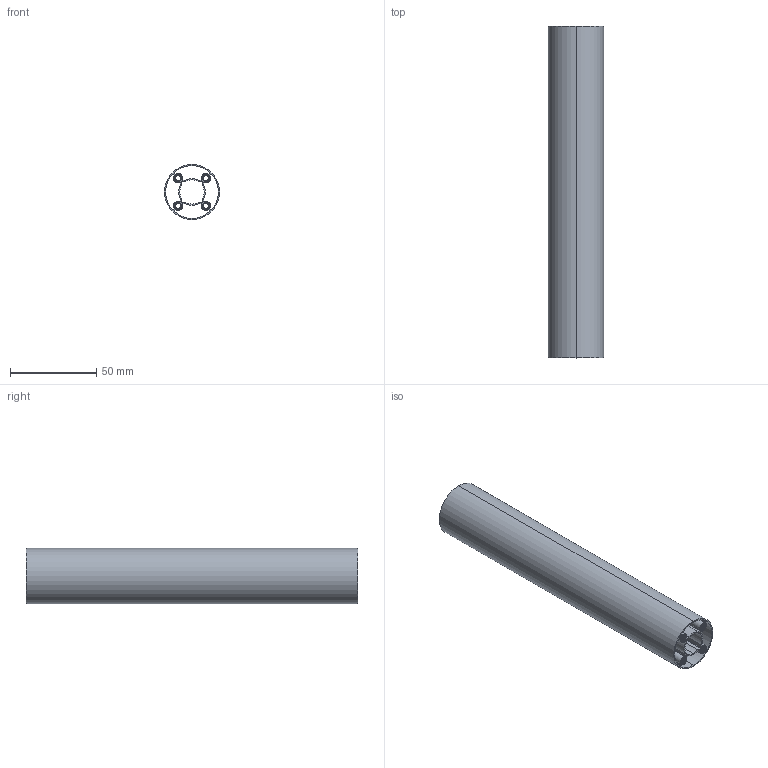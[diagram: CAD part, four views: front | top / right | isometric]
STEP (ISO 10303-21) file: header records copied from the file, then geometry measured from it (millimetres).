
FILE_DESCRIPTION (( 'STEP AP203' ), '1' );
FILE_NAME ('4103-0032-0192.STEP', '2022-09-13T20:36:24', ( '' ), ( '' ), 'SwSTEP 2.0', 'SolidWorks 2016', '' );
FILE_SCHEMA (( 'CONFIG_CONTROL_DESIGN' ));
Length unit declared in the file: millimetre
Products named in the file (1): 4103-0032-0192
Bounding box: 31.95 x 192 x 31.95 mm (x, y, z)
Volume: 32354.5 mm3; surface area: 76902 mm2
Topology: 1 solids, 1 shells, 781 faces, 2333 edges, 1554 vertices
Faces by surface type: cylinder 711, plane 34, cone 20, bspline 16
Entity records: 50002 total; most frequent: CARTESIAN_POINT 32717, ORIENTED_EDGE 4666, DIRECTION 2715, EDGE_CURVE 2333, VERTEX_POINT 1554, AXIS2_PLACEMENT_3D 960, EDGE_LOOP 799, LINE 795
